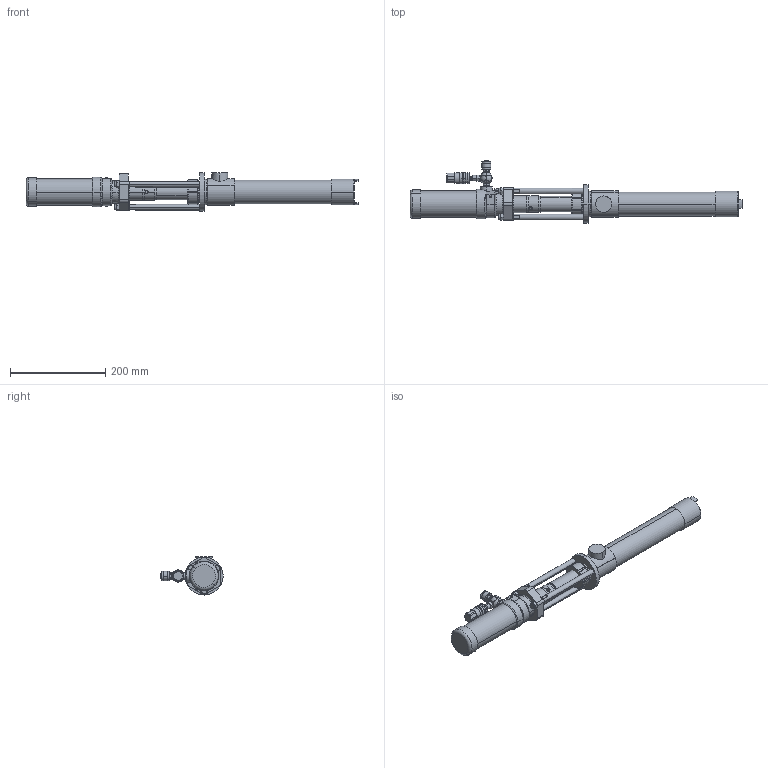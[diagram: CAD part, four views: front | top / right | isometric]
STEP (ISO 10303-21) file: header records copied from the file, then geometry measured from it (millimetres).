
FILE_DESCRIPTION((''),'2;1');
FILE_NAME('226952-EN-ZAC_PRT','2019-12-31T16:03:47',('qusrh3'),(''),'CREO PARAMETRIC BY PTC INC, 2019030','CREO PARAMETRIC BY PTC INC, 2019030','');
FILE_SCHEMA(('CONFIG_CONTROL_DESIGN'));
Length unit declared in the file: inch
Products named in the file (1): 226952-EN-ZAC_PRT
Bounding box: 696.52 x 130.59 x 80 mm (x, y, z)
Surface area: 237520.8 mm2 (no closed solid volume)
Topology: 0 solids, 76 shells, 447 faces, 1198 edges, 791 vertices
Faces by surface type: plane 172, cylinder 152, cone 94, torus 17, bspline 6, sphere 6
Entity records: 14939 total; most frequent: CARTESIAN_POINT 4127, DIRECTION 2320, ORIENTED_EDGE 2032, EDGE_CURVE 1198, AXIS2_PLACEMENT_3D 905, VERTEX_POINT 791, VECTOR 510, LINE 510
